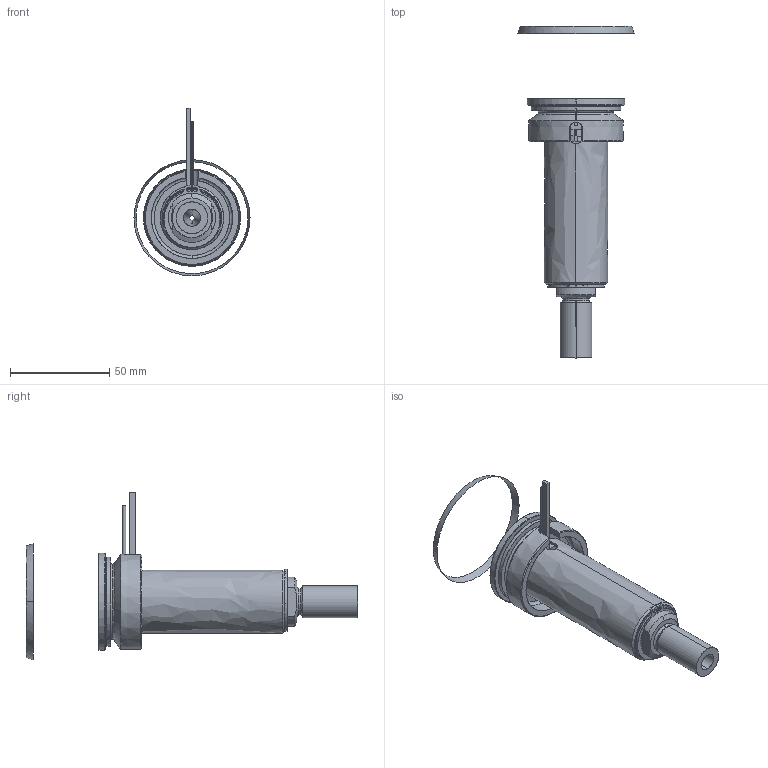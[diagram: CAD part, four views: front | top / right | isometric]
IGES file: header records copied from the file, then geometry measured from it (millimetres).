
Start section: SolidWorks IGES file using analytic representation for surfaces
Global section: file name: C:\Documents and Settings\ws-20\Desktop\TEMPORANEA\UGBE5002-S-A-P-5 [Ød-2.5 P-25 ØC-13].IGS; native system: SolidWorks 2012; preprocessor: SolidWorks 2012; author: ws-20; date: 120306.161938; units: millimetre
Bounding box: 58.57 x 167.44 x 84.59 mm (x, y, z)
Surface area: 43131.2 mm2 (no closed solid volume)
Topology: 0 solids, 0 shells, 110 faces, 2144 edges, 2144 vertices
Faces by surface type: revolution 68, bspline 42
